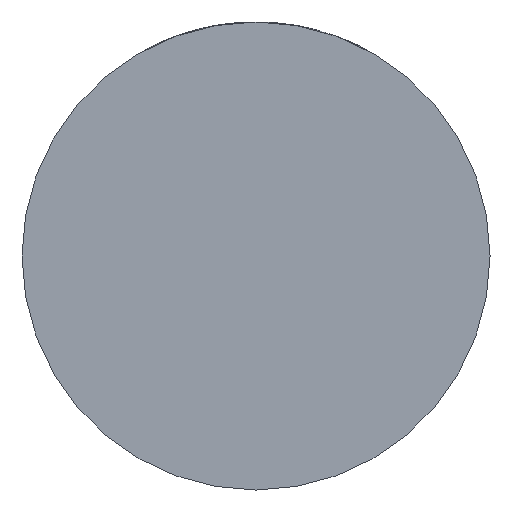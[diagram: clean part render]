
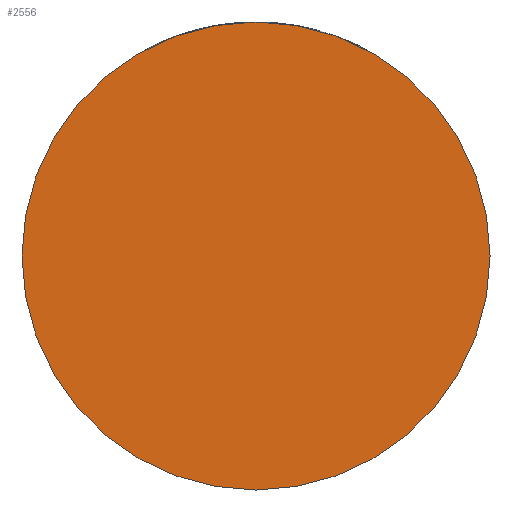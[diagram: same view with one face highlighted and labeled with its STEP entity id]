
A CAD part, front view. The second image highlights one B-rep face of the part: STEP entity #2556.
In plain terms, the highlighted planar face has unit normal (0, -1, 0).
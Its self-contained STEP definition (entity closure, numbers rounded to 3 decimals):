
#249 = AXIS2_PLACEMENT_3D ( 'NONE', #2101, #4821, #1325 ) ;
#521 = ORIENTED_EDGE ( 'NONE', *, *, #4976, .T. ) ;
#604 = PLANE ( 'NONE',  #249 ) ;
#1325 = DIRECTION ( 'NONE',  ( 1., 0., 0. ) ) ;
#1379 = VERTEX_POINT ( 'NONE', #2815 ) ;
#1547 = CIRCLE ( 'NONE', #3267, 39. ) ;
#1745 = ORIENTED_EDGE ( 'NONE', *, *, #3314, .T. ) ;
#1989 = EDGE_LOOP ( 'NONE', ( #1745, #521 ) ) ;
#2101 = CARTESIAN_POINT ( 'NONE',  ( 0., -36., 0. ) ) ;
#2516 = VERTEX_POINT ( 'NONE', #4083 ) ;
#2556 = ADVANCED_FACE ( 'NONE', ( #3292 ), #604, .T. ) ;
#2560 = CARTESIAN_POINT ( 'NONE',  ( 0., -36., 0. ) ) ;
#2736 = CARTESIAN_POINT ( 'NONE',  ( 0., -36., 0. ) ) ;
#2815 = CARTESIAN_POINT ( 'NONE',  ( -39., -36., 0. ) ) ;
#3149 = DIRECTION ( 'NONE',  ( 0., -1., 0. ) ) ;
#3267 = AXIS2_PLACEMENT_3D ( 'NONE', #2736, #3149, #3849 ) ;
#3292 = FACE_OUTER_BOUND ( 'NONE', #1989, .T. ) ;
#3296 = DIRECTION ( 'NONE',  ( 1., 0., 0. ) ) ;
#3314 = EDGE_CURVE ( 'NONE', #1379, #2516, #3444, .T. ) ;
#3444 = CIRCLE ( 'NONE', #4799, 39. ) ;
#3686 = DIRECTION ( 'NONE',  ( 0., -1., 0. ) ) ;
#3849 = DIRECTION ( 'NONE',  ( 1., 0., 0. ) ) ;
#4083 = CARTESIAN_POINT ( 'NONE',  ( 39., -36., 0. ) ) ;
#4799 = AXIS2_PLACEMENT_3D ( 'NONE', #2560, #3686, #3296 ) ;
#4821 = DIRECTION ( 'NONE',  ( 0., -1., 0. ) ) ;
#4976 = EDGE_CURVE ( 'NONE', #2516, #1379, #1547, .T. ) ;
